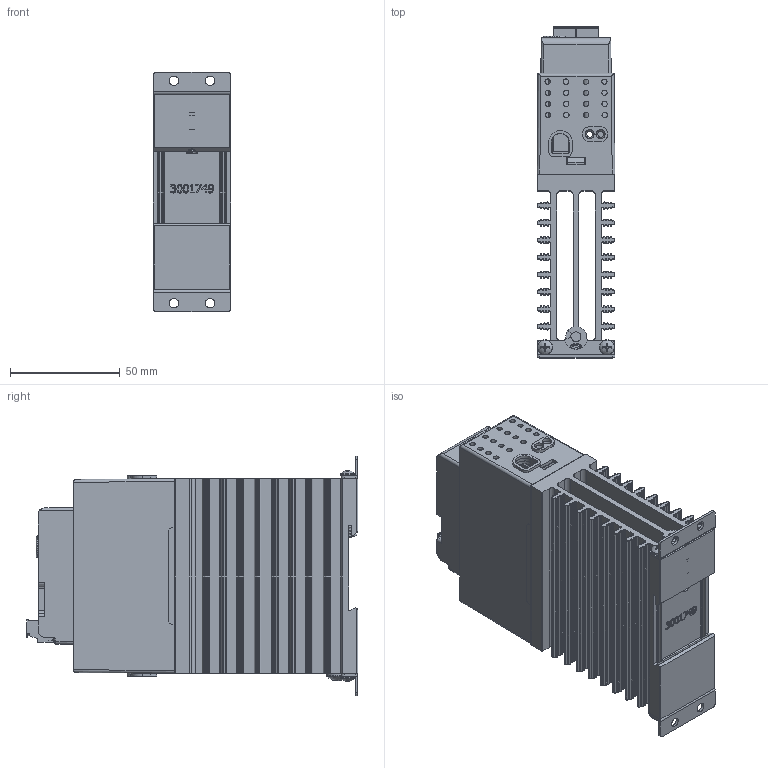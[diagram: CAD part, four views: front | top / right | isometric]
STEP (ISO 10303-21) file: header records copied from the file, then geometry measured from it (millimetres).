
FILE_DESCRIPTION(/* description */ (''),/* implementation_level */ '2;1');
FILE_NAME(/* name */ '1-phase Analog 32A w-mounting.stp',/* time_stamp */ '2024-10-29T14:20:05-05:00',/* author */ ('ErikG'),/* organization */ (''),/* preprocessor_version */ 'ST-DEVELOPER v20',/* originating_system */ 'Autodesk Inventor 2025',/* authorisation */ '');
FILE_SCHEMA (('AUTOMOTIVE_DESIGN { 1 0 10303 214 3 1 1 }'));
Products named in the file (22): 3001631e; 3001757; 1001578K; P1; fci 6 pin header OQ06120000J0G; fci 6 pin headerOQ06120000J0G half 1; fci 5 pin header OQ05120000J0G half 2; fci 6 pin connector TS06110B00J0G; fci 5 pin connector TS05110B00J0G LEFT HALF; fci 5 pin connector TS05110B00J0G RIGHT HALF; P4; usb-c31-s-vt-cs4-bk-pp-t-r-model ADAMTECH; 3001759; 3001760; 3001755; 3001756; 3001749; 0060702-1032-0375; 3001752; 0060002-0632-0375; 0060783-0610-010.ipt; spring
Assembly tree (26 placements, depth 6):
  3001631e
    3001757
    1001578K
      P1
        fci 6 pin header OQ06120000J0G
          fci 6 pin headerOQ06120000J0G half 1
          fci 5 pin header OQ05120000J0G half 2
          fci 6 pin connector TS06110B00J0G
            fci 5 pin connector TS05110B00J0G LEFT HALF
            fci 5 pin connector TS05110B00J0G RIGHT HALF
      P4
        usb-c31-s-vt-cs4-bk-pp-t-r-model ADAMTECH
    3001759
    3001760  x2
    3001755
    3001756
    3001749
    0060702-1032-0375
    3001752  x2
    0060002-0632-0375  x4
    0060783-0610-010.ipt
    spring
Bounding box: 35.56 x 151.53 x 109.22 mm (x, y, z)
Volume: 161625.4 mm3; surface area: 159754.7 mm2
Topology: 22 solids, 112 shells, 5199 faces, 14222 edges, 9325 vertices
Faces by surface type: plane 3667, cylinder 1083, cone 244, bspline 124, torus 74, sphere 7
Full cylindrical faces by diameter (mm): 0.254 x1, 0.45 x2, 0.55 x2, 0.65 x2, 1 x2, 2.3 x12, 2.54 x2, 2.642 x3, 2.95 x6, 3.277 x2, 3.505 x4, 4.318 x8, 4.826 x1, 4.917 x1, 6 x1, 6.172 x1, 6.858 x4, 7.976 x1, 9.474 x1
Entity records: 175253 total; most frequent: CARTESIAN_POINT 45540, ORIENTED_EDGE 27618, DIRECTION 25763, EDGE_CURVE 13809, LINE 10229, VECTOR 10229, VERTEX_POINT 9059, AXIS2_PLACEMENT_3D 7767
